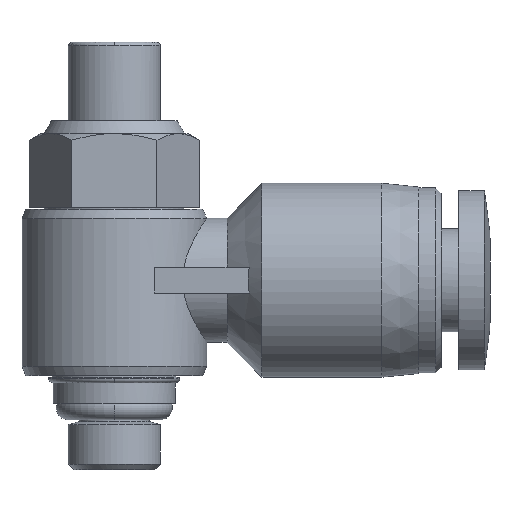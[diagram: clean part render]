
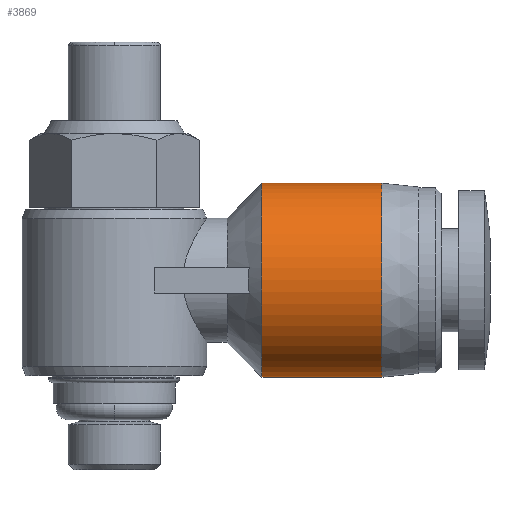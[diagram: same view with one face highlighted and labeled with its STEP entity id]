
A CAD part, top view. The second image highlights one B-rep face of the part: STEP entity #3869.
In plain terms, the highlighted cylindrical face has radius 5.25 mm (diameter 10.5 mm), a partial arc.
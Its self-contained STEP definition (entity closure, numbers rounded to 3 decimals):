
#12 = ORIENTED_EDGE ( 'NONE', *, *, #404, .T. ) ;
#73 = CARTESIAN_POINT ( 'NONE',  ( 8., 5.01, 0. ) ) ;
#134 = EDGE_CURVE ( 'NONE', #436, #2527, #5255, .T. ) ;
#377 = CARTESIAN_POINT ( 'NONE',  ( 8., 15.51, 0.687 ) ) ;
#404 = EDGE_CURVE ( 'NONE', #2298, #436, #1007, .T. ) ;
#426 = VECTOR ( 'NONE', #4830, 1000. ) ;
#436 = VERTEX_POINT ( 'NONE', #2306 ) ;
#552 = CARTESIAN_POINT ( 'NONE',  ( 14.5, 11.634, 5.113 ) ) ;
#580 = CARTESIAN_POINT ( 'NONE',  ( 14.5, 5.673, 2.644 ) ) ;
#725 = CARTESIAN_POINT ( 'NONE',  ( 8., 9.573, 5.25 ) ) ;
#726 = ORIENTED_EDGE ( 'NONE', *, *, #3411, .F. ) ;
#763 = CARTESIAN_POINT ( 'NONE',  ( 11.25, 10.26, 0. ) ) ;
#777 = ORIENTED_EDGE ( 'NONE', *, *, #5406, .F. ) ;
#780 = CARTESIAN_POINT ( 'NONE',  ( 8., 14.847, 2.644 ) ) ;
#962 = LINE ( 'NONE', #3638, #5377 ) ;
#989 = CARTESIAN_POINT ( 'NONE',  ( 14.5, 10.947, 5.25 ) ) ;
#1000 = EDGE_LOOP ( 'NONE', ( #12, #4019, #777, #726 ) ) ;
#1007 = B_SPLINE_CURVE_WITH_KNOTS ( 'NONE', 3,
 ( #3662, #2757, #4492, #580, #3204, #4431, #5376, #4542, #2331, #989, #552, #2729, #1849, #1016, #3151, #4894, #3683, #5399 ),
 .UNSPECIFIED., .F., .F.,
 ( 4, 2, 2, 2, 2, 2, 2, 2, 4 ),
 ( 0., 0.063, 0.125, 0.188, 0.25, 0.313, 0.375, 0.438, 0.5 ),
 .UNSPECIFIED. ) ;
#1016 = CARTESIAN_POINT ( 'NONE',  ( 14.5, 14.458, 3.226 ) ) ;
#1159 = CARTESIAN_POINT ( 'NONE',  ( 8., 5.673, 2.644 ) ) ;
#1190 = CARTESIAN_POINT ( 'NONE',  ( 8., 6.062, 3.226 ) ) ;
#1352 = CARTESIAN_POINT ( 'NONE',  ( 11.25, 15.51, 0. ) ) ;
#1849 = CARTESIAN_POINT ( 'NONE',  ( 14.5, 13.486, 4.198 ) ) ;
#1990 = CARTESIAN_POINT ( 'NONE',  ( 14.5, 5.01, 0. ) ) ;
#2018 = CARTESIAN_POINT ( 'NONE',  ( 8., 10.947, 5.25 ) ) ;
#2075 = CARTESIAN_POINT ( 'NONE',  ( 8., 11.634, 5.113 ) ) ;
#2118 = DIRECTION ( 'NONE',  ( -1., 0., 0. ) ) ;
#2134 = CARTESIAN_POINT ( 'NONE',  ( 8., 14.458, 3.226 ) ) ;
#2298 = VERTEX_POINT ( 'NONE', #1990 ) ;
#2306 = CARTESIAN_POINT ( 'NONE',  ( 14.5, 15.51, 0. ) ) ;
#2331 = CARTESIAN_POINT ( 'NONE',  ( 14.5, 9.573, 5.25 ) ) ;
#2466 = CARTESIAN_POINT ( 'NONE',  ( 8., 12.904, 4.587 ) ) ;
#2506 = DIRECTION ( 'NONE',  ( 0., -1., 0. ) ) ;
#2527 = VERTEX_POINT ( 'NONE', #2905 ) ;
#2566 = B_SPLINE_CURVE_WITH_KNOTS ( 'NONE', 3,
 ( #5056, #5088, #5537, #1159, #1190, #3801, #4632, #5507, #725, #2018, #2075, #2466, #4718, #2134, #780, #5145, #377, #5590 ),
 .UNSPECIFIED., .F., .F.,
 ( 4, 2, 2, 2, 2, 2, 2, 2, 4 ),
 ( 0., 0.063, 0.125, 0.188, 0.25, 0.313, 0.375, 0.438, 0.5 ),
 .UNSPECIFIED. ) ;
#2729 = CARTESIAN_POINT ( 'NONE',  ( 14.5, 12.904, 4.587 ) ) ;
#2757 = CARTESIAN_POINT ( 'NONE',  ( 14.5, 5.01, 0.687 ) ) ;
#2905 = CARTESIAN_POINT ( 'NONE',  ( 8., 15.51, 0. ) ) ;
#3063 = CYLINDRICAL_SURFACE ( 'NONE', #5055, 5.25 ) ;
#3151 = CARTESIAN_POINT ( 'NONE',  ( 14.5, 14.847, 2.644 ) ) ;
#3204 = CARTESIAN_POINT ( 'NONE',  ( 14.5, 6.062, 3.226 ) ) ;
#3411 = EDGE_CURVE ( 'NONE', #2298, #3997, #962, .T. ) ;
#3638 = CARTESIAN_POINT ( 'NONE',  ( 11.25, 5.01, 0. ) ) ;
#3662 = CARTESIAN_POINT ( 'NONE',  ( 14.5, 5.01, 0. ) ) ;
#3683 = CARTESIAN_POINT ( 'NONE',  ( 14.5, 15.51, 0.687 ) ) ;
#3801 = CARTESIAN_POINT ( 'NONE',  ( 8., 7.034, 4.198 ) ) ;
#3869 = ADVANCED_FACE ( 'NONE', ( #5235 ), #3063, .T. ) ;
#3997 = VERTEX_POINT ( 'NONE', #73 ) ;
#4019 = ORIENTED_EDGE ( 'NONE', *, *, #134, .T. ) ;
#4431 = CARTESIAN_POINT ( 'NONE',  ( 14.5, 7.034, 4.198 ) ) ;
#4492 = CARTESIAN_POINT ( 'NONE',  ( 14.5, 5.147, 1.374 ) ) ;
#4542 = CARTESIAN_POINT ( 'NONE',  ( 14.5, 8.886, 5.113 ) ) ;
#4632 = CARTESIAN_POINT ( 'NONE',  ( 8., 7.616, 4.587 ) ) ;
#4718 = CARTESIAN_POINT ( 'NONE',  ( 8., 13.486, 4.198 ) ) ;
#4830 = DIRECTION ( 'NONE',  ( -1., 0., 0. ) ) ;
#4894 = CARTESIAN_POINT ( 'NONE',  ( 14.5, 15.373, 1.374 ) ) ;
#5055 = AXIS2_PLACEMENT_3D ( 'NONE', #763, #2118, #2506 ) ;
#5056 = CARTESIAN_POINT ( 'NONE',  ( 8., 5.01, 0. ) ) ;
#5088 = CARTESIAN_POINT ( 'NONE',  ( 8., 5.01, 0.687 ) ) ;
#5145 = CARTESIAN_POINT ( 'NONE',  ( 8., 15.373, 1.374 ) ) ;
#5235 = FACE_OUTER_BOUND ( 'NONE', #1000, .T. ) ;
#5255 = LINE ( 'NONE', #1352, #426 ) ;
#5376 = CARTESIAN_POINT ( 'NONE',  ( 14.5, 7.616, 4.587 ) ) ;
#5377 = VECTOR ( 'NONE', #5378, 1000. ) ;
#5378 = DIRECTION ( 'NONE',  ( -1., 0., 0. ) ) ;
#5399 = CARTESIAN_POINT ( 'NONE',  ( 14.5, 15.51, 0. ) ) ;
#5406 = EDGE_CURVE ( 'NONE', #3997, #2527, #2566, .T. ) ;
#5507 = CARTESIAN_POINT ( 'NONE',  ( 8., 8.886, 5.113 ) ) ;
#5537 = CARTESIAN_POINT ( 'NONE',  ( 8., 5.147, 1.374 ) ) ;
#5590 = CARTESIAN_POINT ( 'NONE',  ( 8., 15.51, 0. ) ) ;
